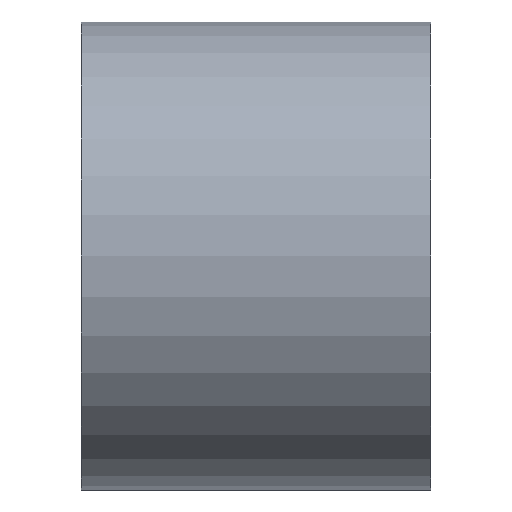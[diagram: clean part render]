
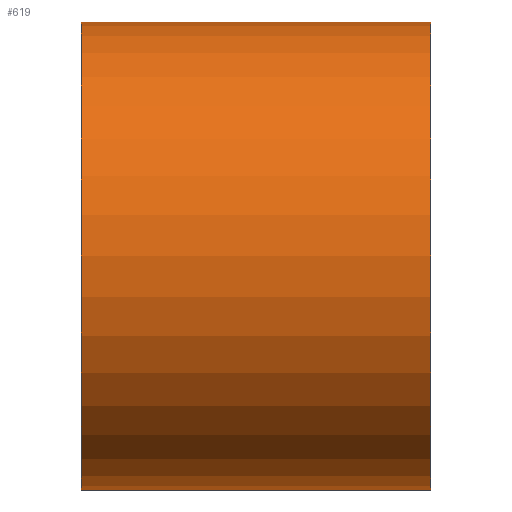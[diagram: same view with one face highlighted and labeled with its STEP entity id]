
A CAD part, left-side view. The second image highlights one B-rep face of the part: STEP entity #619.
In plain terms, the highlighted cylindrical face has radius 4.759 mm (diameter 9.517 mm), a partial arc.
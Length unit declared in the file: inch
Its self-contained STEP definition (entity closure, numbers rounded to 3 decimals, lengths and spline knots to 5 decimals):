
#10 = CARTESIAN_POINT ( 'NONE',  ( 0., 0.28, 0.18735 ) ) ;
#33 = CIRCLE ( 'NONE', #1853, 0.18735 ) ;
#44 = VERTEX_POINT ( 'NONE', #419 ) ;
#139 = DIRECTION ( 'NONE',  ( 0., -1., 0. ) ) ;
#199 = VERTEX_POINT ( 'NONE', #1639 ) ;
#262 = ORIENTED_EDGE ( 'NONE', *, *, #703, .F. ) ;
#368 = VECTOR ( 'NONE', #1563, 39.37008 ) ;
#392 = EDGE_CURVE ( 'NONE', #1475, #415, #1294, .T. ) ;
#415 = VERTEX_POINT ( 'NONE', #512 ) ;
#419 = CARTESIAN_POINT ( 'NONE',  ( 0., 0.28, -0.18735 ) ) ;
#438 = EDGE_CURVE ( 'NONE', #44, #199, #725, .T. ) ;
#512 = CARTESIAN_POINT ( 'NONE',  ( 0., 0., 0.18735 ) ) ;
#619 = ADVANCED_FACE ( 'NONE', ( #672 ), #1519, .T. ) ;
#672 = FACE_OUTER_BOUND ( 'NONE', #1723, .T. ) ;
#703 = EDGE_CURVE ( 'NONE', #44, #1475, #1256, .T. ) ;
#725 = LINE ( 'NONE', #878, #368 ) ;
#753 = EDGE_CURVE ( 'NONE', #199, #415, #33, .T. ) ;
#878 = CARTESIAN_POINT ( 'NONE',  ( 0., 0.28, -0.18735 ) ) ;
#986 = ORIENTED_EDGE ( 'NONE', *, *, #392, .F. ) ;
#1133 = DIRECTION ( 'NONE',  ( 0., 0., 1. ) ) ;
#1146 = CARTESIAN_POINT ( 'NONE',  ( 0., 0., 0. ) ) ;
#1166 = AXIS2_PLACEMENT_3D ( 'NONE', #1935, #1909, #1968 ) ;
#1170 = DIRECTION ( 'NONE',  ( 0., 1., 0. ) ) ;
#1221 = DIRECTION ( 'NONE',  ( 0., 0., 1. ) ) ;
#1233 = ORIENTED_EDGE ( 'NONE', *, *, #753, .T. ) ;
#1238 = CARTESIAN_POINT ( 'NONE',  ( 0., 0.28, 0. ) ) ;
#1256 = CIRCLE ( 'NONE', #1511, 0.18735 ) ;
#1294 = LINE ( 'NONE', #10, #1748 ) ;
#1352 = DIRECTION ( 'NONE',  ( 0., 1., 0. ) ) ;
#1468 = CARTESIAN_POINT ( 'NONE',  ( 0., 0.28, 0.18735 ) ) ;
#1475 = VERTEX_POINT ( 'NONE', #1468 ) ;
#1511 = AXIS2_PLACEMENT_3D ( 'NONE', #1238, #1352, #1221 ) ;
#1519 = CYLINDRICAL_SURFACE ( 'NONE', #1166, 0.18735 ) ;
#1563 = DIRECTION ( 'NONE',  ( 0., -1., 0. ) ) ;
#1639 = CARTESIAN_POINT ( 'NONE',  ( 0., 0., -0.18735 ) ) ;
#1723 = EDGE_LOOP ( 'NONE', ( #986, #262, #1829, #1233 ) ) ;
#1748 = VECTOR ( 'NONE', #139, 39.37008 ) ;
#1829 = ORIENTED_EDGE ( 'NONE', *, *, #438, .T. ) ;
#1853 = AXIS2_PLACEMENT_3D ( 'NONE', #1146, #1170, #1133 ) ;
#1909 = DIRECTION ( 'NONE',  ( 0., -1., 0. ) ) ;
#1935 = CARTESIAN_POINT ( 'NONE',  ( 0., 0.28, 0. ) ) ;
#1968 = DIRECTION ( 'NONE',  ( 0., 0., -1. ) ) ;
